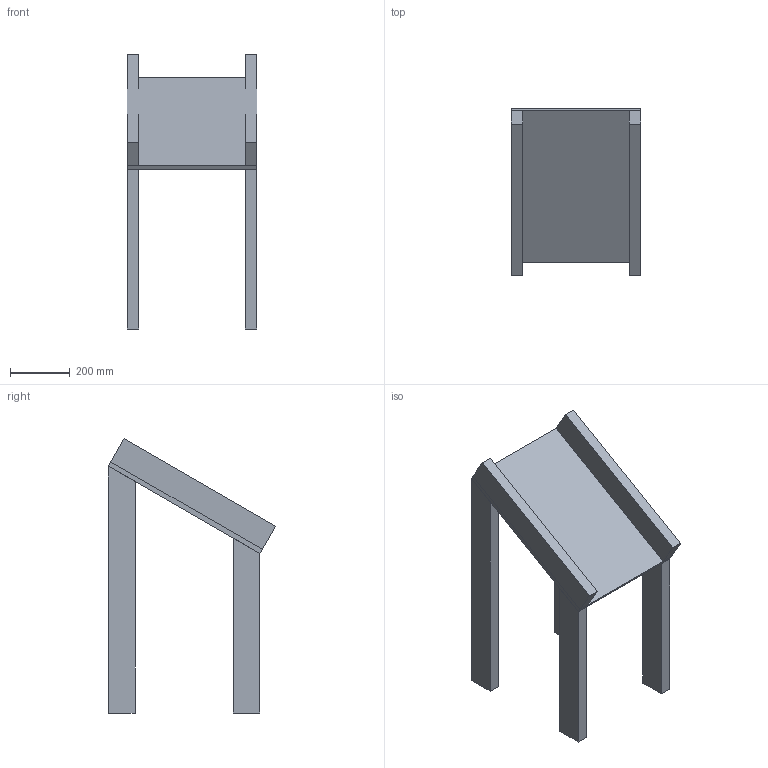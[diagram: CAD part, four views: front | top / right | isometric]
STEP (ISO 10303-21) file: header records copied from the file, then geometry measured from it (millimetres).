
FILE_DESCRIPTION(('FreeCAD Model'),'2;1');
FILE_NAME('Open CASCADE Shape Model','2023-09-28T12:49:49',('Author'),( ''),'Open CASCADE STEP processor 7.6','FreeCAD','Unknown');
FILE_SCHEMA(('AUTOMOTIVE_DESIGN { 1 0 10303 214 1 1 1 1 }'));
Length unit declared in the file: millimetre
Products named in the file (8): ramp_assm; ramp bottom leg_001; ramp platform_001; ramp bottom leg_002; ramp top leg_001; ramp top leg_002; ramp side_001; ramp side_002
Assembly tree (7 placements, depth 2):
  ramp_assm
    ramp bottom leg_001
    ramp platform_001
    ramp bottom leg_002
    ramp top leg_001
    ramp top leg_002
    ramp side_001
    ramp side_002
Bounding box: 431.8 x 558.32 x 916.76 mm (x, y, z)
Volume: 17171064.1 mm3; surface area: 1566876.4 mm2
Topology: 7 solids, 7 shells, 42 faces, 84 edges, 56 vertices
Faces by surface type: plane 42
Entity records: 2357 total; most frequent: CARTESIAN_POINT 358, DIRECTION 352, LINE 252, VECTOR 252, ORIENTED_EDGE 168, PCURVE 168, DEFINITIONAL_REPRESENTATION 168, EDGE_CURVE 84
